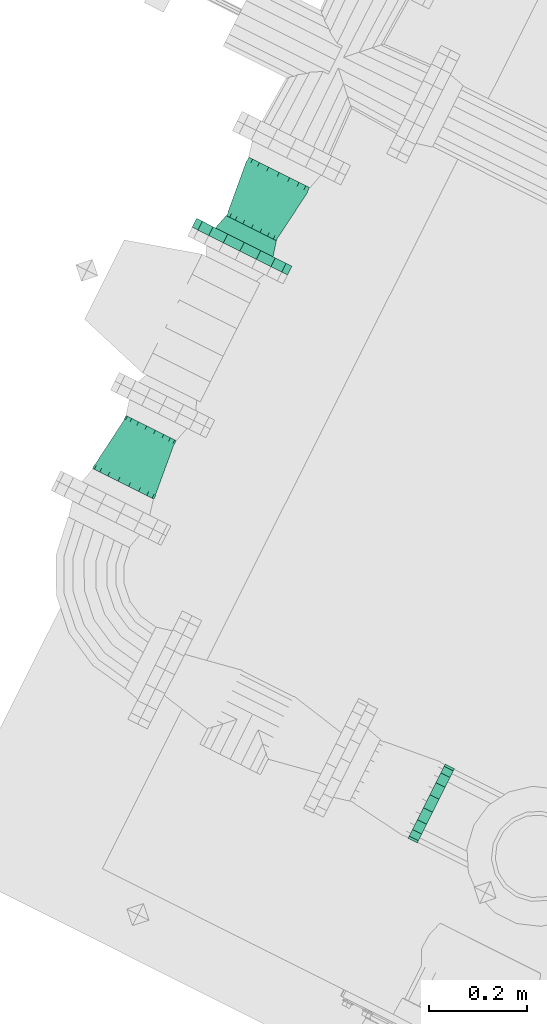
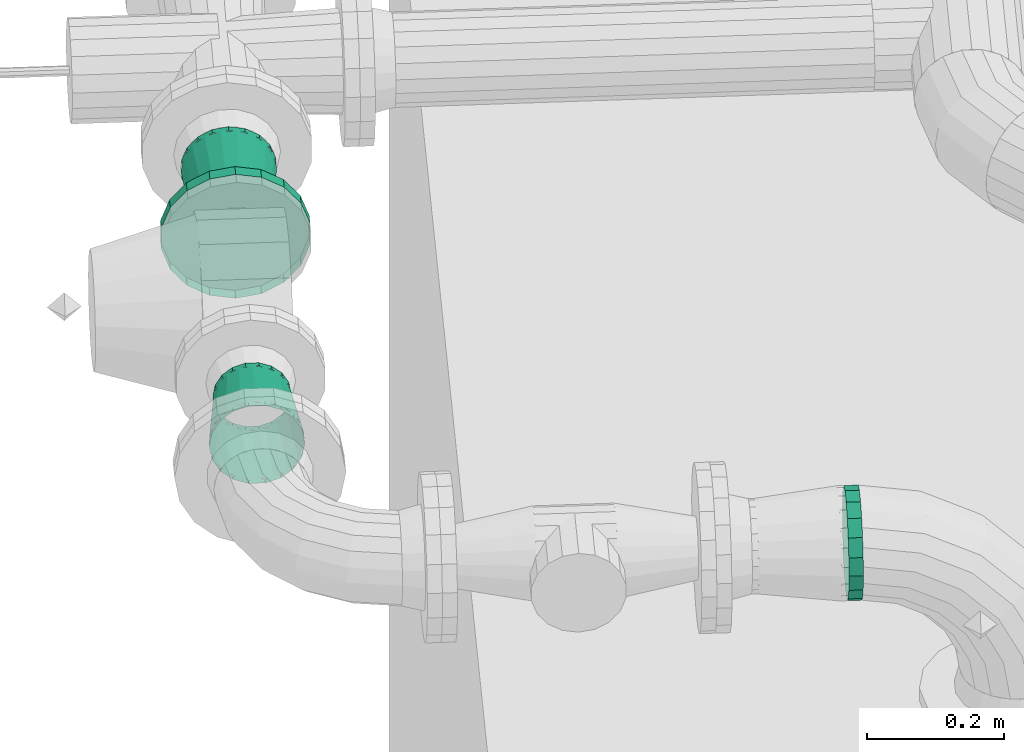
# One storey, part 101 of 206: 3 flow fittings, 1 flow segment.
"""IFC2X3 building model written with IfcOpenShell, lengths in metres."""

import ifcopenshell
import ifcopenshell.guid

model = None  # the IFC model being written
_history = None  # IfcOwnerHistory: only IFC2X3 demands one
_inside = {}  # id of a spatial element -> (the spatial element, [elements in it])
_under = {}  # id of a project, library or spatial element -> (it, [spatial elements below it])
_declared = {}  # id of a project -> (the project, [libraries it declares])
_typed = {}  # id of a type object -> (the type object, [elements of that type])
_made_of = {}  # id of a material, layer set ... -> (it, [elements and type objects made of it])


def new_model(schema):
    """Start an empty IFC model of exactly this schema.

    Asked for "IFC4X3", IfcOpenShell would pick the latest addendum, in which some entities
    have other attributes; the version numbers below select the first issue.
    IFC2X3 requires an IfcOwnerHistory on every rooted entity: one is made here for all.
    """
    global model, _history
    if schema == "IFC4X3":
        model = ifcopenshell.file(schema_version=(4, 3, 0, 0))
    else:
        model = ifcopenshell.file(schema=schema)
    _inside.clear()
    _under.clear()
    _declared.clear()
    _typed.clear()
    _made_of.clear()
    _history = None
    if model.schema == "IFC2X3":
        org = make("IfcOrganization", Name="unknown")
        user = make(
            "IfcPersonAndOrganization",
            ThePerson=make("IfcPerson", FamilyName="unknown"),
            TheOrganization=org,
        )
        app = make(
            "IfcApplication",
            ApplicationDeveloper=org,
            Version="unknown",
            ApplicationFullName="unknown",
            ApplicationIdentifier="unknown",
        )
        _history = make(
            "IfcOwnerHistory",
            OwningUser=user,
            OwningApplication=app,
            ChangeAction="ADDED",
            CreationDate=0,
        )
    return model


def make(cls, **values):
    """One entity of the class cls with the attributes given. An attribute that is None is left unset."""
    return model.create_entity(
        cls, **{name: value for name, value in values.items() if value is not None}
    )


def rooted(cls, **values):
    """An entity with a GlobalId (a new one), such as an element, a storey or a relation."""
    return make(cls, GlobalId=ifcopenshell.guid.new(), OwnerHistory=_history, **values)


def si_unit(unit_type, name, prefix=None):
    """IfcSIUnit, for example si_unit("LENGTHUNIT", "METRE", prefix="MILLI")."""
    return make("IfcSIUnit", UnitType=unit_type, Prefix=prefix, Name=name)


def derived_unit(unit_type, elements):
    """IfcDerivedUnit: a product of units, each with its exponent."""
    return make(
        "IfcDerivedUnit",
        Elements=[
            make("IfcDerivedUnitElement", Unit=unit, Exponent=power)
            for unit, power in elements
        ],
        UnitType=unit_type,
    )


def assignment(units):
    """IfcUnitAssignment: the units of a project."""
    return None if units is None else make("IfcUnitAssignment", Units=units)


def point(xyz):
    """IfcCartesianPoint."""
    return None if xyz is None else make("IfcCartesianPoint", Coordinates=xyz)


def direction(xyz):
    """IfcDirection."""
    return None if xyz is None else make("IfcDirection", DirectionRatios=xyz)


def frame(location, z_axis=None, x_axis=None):
    """IfcAxis2Placement3D, a coordinate frame: its origin and axes. An axis left out is left unset."""
    return make(
        "IfcAxis2Placement3D",
        Location=point(location),
        Axis=direction(z_axis),
        RefDirection=direction(x_axis),
    )


def origin():
    """The frame at (0, 0, 0) with its axes left unset."""
    return frame((0.0, 0.0, 0.0))


def place(relative_to, where):
    """IfcLocalPlacement: puts the frame where relative to a parent placement (None: the world)."""
    return make(
        "IfcLocalPlacement", PlacementRelTo=relative_to, RelativePlacement=where
    )


def context(
    kind, dimensions, precision=None, world=None, true_north=None, identifier=None
):
    """IfcGeometricRepresentationContext, for example the 3D "Model" context."""
    return make(
        "IfcGeometricRepresentationContext",
        ContextIdentifier=identifier,
        ContextType=kind,
        CoordinateSpaceDimension=dimensions,
        Precision=precision,
        WorldCoordinateSystem=world,
        TrueNorth=true_north,
    )


def subcontext(parent, identifier, kind, view, scale=None):
    """IfcGeometricRepresentationSubContext, for example "Body" below "Model"."""
    return make(
        "IfcGeometricRepresentationSubContext",
        ContextIdentifier=identifier,
        ContextType=kind,
        ParentContext=parent,
        TargetScale=scale,
        TargetView=view,
    )


def project(units=None, contexts=None):
    """IfcProject with its units and contexts."""
    return rooted(
        "IfcProject",
        Name="project",
        RepresentationContexts=contexts,
        UnitsInContext=assignment(units),
    )


def spatial(cls, under=None, at=None, **own):
    """A site, building, storey or space (cls), placed at a placement, below another one or the project."""
    s = rooted(cls, ObjectPlacement=at, **own)
    if under is not None:
        _under.setdefault(under.id(), (under, []))[1].append(s)
    return s


def faces_of(points, faces, orient=None, outer=None):
    """IfcFace entities. A face is a list of loops; a loop is a list of indices into points, from 0.

    orient and outer hold one flag for each loop. By default every Orientation is true, the
    first loop of a face is its IfcFaceOuterBound and the others are IfcFaceBound.
    """
    made = []
    for i, loops in enumerate(faces):
        bounds = []
        for j, loop in enumerate(loops):
            is_outer = j == 0 if outer is None else outer[i][j]
            bounds.append(
                make(
                    "IfcFaceOuterBound" if is_outer else "IfcFaceBound",
                    Bound=make("IfcPolyLoop", Polygon=[points[k] for k in loop]),
                    Orientation=True if orient is None else orient[i][j],
                )
            )
        made.append(make("IfcFace", Bounds=bounds))
    return made


def face_set(faces, orient=None, outer=None):
    """The faces of one IfcConnectedFaceSet. surface_model builds it on its shared points."""
    return ("IfcConnectedFaceSet", faces, orient, outer)


def surface_model(cls, points, shells):
    """IfcFaceBasedSurfaceModel or IfcShellBasedSurfaceModel (cls): surfaces that need not close."""
    shared = [point(p) for p in points]
    made = [make(c, CfsFaces=faces_of(shared, fs, o, b)) for c, fs, o, b in shells]
    if cls == "IfcFaceBasedSurfaceModel":
        return make(cls, FbsmFaces=made)
    return make(cls, SbsmBoundary=made)


def shape(context_of_items, identifier, shape_type, items):
    """IfcShapeRepresentation: the items that make up one representation, for example the "Body"."""
    return make(
        "IfcShapeRepresentation",
        ContextOfItems=context_of_items,
        RepresentationIdentifier=identifier,
        RepresentationType=shape_type,
        Items=items,
    )


def source(mapping_origin, context_of_items, identifier, shape_type, items):
    """IfcRepresentationMap: a shape defined once, which mapped items show again and again."""
    return make(
        "IfcRepresentationMap",
        MappingOrigin=mapping_origin,
        MappedRepresentation=shape(context_of_items, identifier, shape_type, items),
    )


def transform(
    local_origin,
    x_axis=None,
    y_axis=None,
    z_axis=None,
    scale=None,
    scale2=None,
    scale3=None,
    uniform=True,
):
    """IfcCartesianTransformationOperator3D, or its non-uniform kind. x_axis, y_axis, z_axis: its Axis1, 2, 3."""
    if uniform:
        return make(
            "IfcCartesianTransformationOperator3D",
            Axis1=direction(x_axis),
            Axis2=direction(y_axis),
            LocalOrigin=point(local_origin),
            Scale=scale,
            Axis3=direction(z_axis),
        )
    return make(
        "IfcCartesianTransformationOperator3DnonUniform",
        Axis1=direction(x_axis),
        Axis2=direction(y_axis),
        LocalOrigin=point(local_origin),
        Scale=scale,
        Axis3=direction(z_axis),
        Scale2=scale2,
        Scale3=scale3,
    )


def mapped(mapping_source, mapping_target):
    """IfcMappedItem: shows the shape of a source again, moved by a transform."""
    return make(
        "IfcMappedItem", MappingSource=mapping_source, MappingTarget=mapping_target
    )


def material(Name=None, Category=None):
    """IfcMaterial."""
    return make("IfcMaterial", Name=Name, Category=Category)


def made_of(thing, what):
    """Note that an element or type object is made of a material, layer set ...; save() writes the relation."""
    if what is not None:
        _made_of.setdefault(what.id(), (what, []))[1].append(thing)
    return thing


def type_object(cls, material=None, **own):
    """A type object (cls), such as IfcWallType, which elements share."""
    return made_of(rooted(cls, **own), material)


def type_shapes(of_type, sources):
    """Give a type object the sources (RepresentationMaps) that its elements show as mapped items."""
    of_type.RepresentationMaps = sources


def element(
    cls,
    number,
    at=None,
    inside=None,
    cuts=None,
    type_object=None,
    material=None,
    context=None,
    identifier="Body",
    shape_type=None,
    held_by="IfcProductDefinitionShape",
    body=None,
    shapes=None,
    **own,
):
    """One element of the class cls, such as IfcWall. Its Tag is "e" and its number.

    at: its placement. inside: the storey or other place that contains it. cuts: it is an
    opening in that element (IfcRelVoidsElement). A single representation is given by context,
    identifier, shape_type and body (its items); several are given by shapes. held_by: the class
    of the entity that holds the representations. save() writes the other relations.
    """
    e = rooted(cls, Tag="e%d" % number, ObjectPlacement=at, **own)
    if body is not None:
        shapes = [shape(context, identifier, shape_type, body)]
    if shapes is not None:
        e.Representation = make(held_by, Representations=shapes)
    if inside is not None:
        _inside.setdefault(inside.id(), (inside, []))[1].append(e)
    if cuts is not None:
        rooted(
            "IfcRelVoidsElement", RelatingBuildingElement=cuts, RelatedOpeningElement=e
        )
    if type_object is not None:
        _typed.setdefault(type_object.id(), (type_object, []))[1].append(e)
    return made_of(e, material)


def aggregate(whole, parts):
    """IfcRelAggregates: a whole, such as a stair, and the parts it consists of."""
    return rooted("IfcRelAggregates", RelatingObject=whole, RelatedObjects=parts)


def save(model, path):
    """Write the relations noted so far, then the file.

    IfcRelAggregates (storeys below a building ...), IfcRelContainedInSpatialStructure (elements
    in a storey), IfcRelDefinesByType, IfcRelAssociatesMaterial and IfcRelDeclares: one each for
    every whole, place, type object, material and project.
    """
    for whole, parts in _under.values():
        aggregate(whole, parts)
    for where, things in _inside.values():
        rooted(
            "IfcRelContainedInSpatialStructure",
            RelatedElements=things,
            RelatingStructure=where,
        )
    for kind, things in _typed.values():
        rooted("IfcRelDefinesByType", RelatedObjects=things, RelatingType=kind)
    for what, things in _made_of.values():
        rooted("IfcRelAssociatesMaterial", RelatedObjects=things, RelatingMaterial=what)
    for by, libraries in _declared.values():
        rooted("IfcRelDeclares", RelatingContext=by, RelatedDefinitions=libraries)
    model.write(path)


model = new_model("IFC2X3")

# Units and contexts
model_context = context("Model", 3, precision=5.2338327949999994e-05, world=origin(), true_north=direction((0.0, 1.0)))
body_context = subcontext(model_context, "Body", "Model", "MODEL_VIEW")
ifc_project = project(units=[si_unit("LENGTHUNIT", "METRE"), si_unit("AREAUNIT", "SQUARE_METRE"), si_unit("VOLUMEUNIT", "CUBIC_METRE"), si_unit("MASSUNIT", "GRAM", prefix="KILO"), si_unit("PLANEANGLEUNIT", "RADIAN"), derived_unit("THERMALTRANSMITTANCEUNIT", [(si_unit("MASSUNIT", "GRAM", prefix="KILO"), 1), (si_unit("THERMODYNAMICTEMPERATUREUNIT", "KELVIN"), -1), (si_unit("TIMEUNIT", "SECOND"), -3)])], contexts=[model_context])

# Site, building, storey
site_placement = place(None, frame((0.0, 0.0, 0.0), z_axis=(0.0, 0.0, 1.0), x_axis=(0.8939966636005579, -0.4480736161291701, 0.0)))
site = spatial("IfcSite", under=ifc_project, at=site_placement, Name="Default", CompositionType="ELEMENT")
building_placement = place(site_placement, origin())
building = spatial("IfcBuilding", under=site, at=building_placement, CompositionType="ELEMENT")
storey_placement = place(building_placement, origin())
storey = spatial("IfcBuildingStorey", under=building, at=storey_placement, Name="Erdgeschoss", CompositionType="ELEMENT", Elevation=0.0)

# Flow fittings
ifc_material = material(Name="IfcSurfaceStyle #1741")
distribution_element_type_1 = type_object("IfcDistributionElementType", Name="Übergangsstück 305407:Übergangsstück 305407", material=ifc_material)
shared_shape_1 = source(origin(), body_context, "Body", "SurfaceModel", [
    surface_model("IfcFaceBasedSurfaceModel", [(20.28113007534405, 5.695961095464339, 2.353999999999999), (20.285342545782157, 5.695961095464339, 2.3778901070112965), (20.285342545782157, 5.70549026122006, 2.3778901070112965), (20.28113007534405, 5.70549026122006, 2.353999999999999), (20.297471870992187, 5.695961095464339, 2.398898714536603), (20.297471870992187, 5.70549026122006, 2.398898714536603), (20.316055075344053, 5.695961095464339, 2.4144918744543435), (20.316055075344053, 5.70549026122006, 2.4144918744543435), (20.338850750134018, 5.695961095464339, 2.422788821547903), (20.338850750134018, 5.70549026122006, 2.422788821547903), (20.363109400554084, 5.695961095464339, 2.422788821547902), (20.363109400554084, 5.70549026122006, 2.422788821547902), (20.38590507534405, 5.695961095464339, 2.4144918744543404), (20.38590507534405, 5.70549026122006, 2.4144918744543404), (20.404488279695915, 5.695961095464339, 2.398898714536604), (20.404488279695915, 5.70549026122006, 2.398898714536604), (20.416617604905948, 5.695961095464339, 2.3778901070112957), (20.416617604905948, 5.70549026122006, 2.3778901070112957), (20.420830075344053, 5.695961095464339, 2.353999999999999), (20.420830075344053, 5.70549026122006, 2.353999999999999), (20.416617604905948, 5.695961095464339, 2.3301098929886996), (20.416617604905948, 5.70549026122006, 2.3301098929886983), (20.404488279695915, 5.695961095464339, 2.3091012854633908), (20.404488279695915, 5.70549026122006, 2.3091012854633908), (20.38590507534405, 5.695961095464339, 2.2935081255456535), (20.38590507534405, 5.70549026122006, 2.2935081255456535), (20.363109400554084, 5.695961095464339, 2.285211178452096), (20.363109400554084, 5.70549026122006, 2.285211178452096), (20.338850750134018, 5.695961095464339, 2.285211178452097), (20.338850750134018, 5.70549026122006, 2.285211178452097), (20.316055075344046, 5.695961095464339, 2.2935081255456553), (20.316055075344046, 5.70549026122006, 2.2935081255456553), (20.29747187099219, 5.695961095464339, 2.3091012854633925), (20.29747187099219, 5.70549026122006, 2.3091012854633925), (20.285342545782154, 5.695961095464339, 2.3301098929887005), (20.285342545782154, 5.70549026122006, 2.3301098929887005), (20.35098007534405, 5.70549026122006, 2.4238499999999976), (20.374870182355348, 5.70549026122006, 2.4196375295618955), (20.37052652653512, 5.814341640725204, 2.4077034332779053), (20.350980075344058, 5.814341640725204, 2.4111499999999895), (20.39587878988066, 5.70549026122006, 2.4075082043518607), (20.387715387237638, 5.814341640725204, 2.3977794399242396), (20.411471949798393, 5.70549026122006, 2.388924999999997), (20.400473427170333, 5.814341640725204, 2.382574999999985), (20.41976889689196, 5.70549026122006, 2.366129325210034), (20.4072618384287, 5.814341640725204, 2.3639239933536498), (20.419768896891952, 5.70549026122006, 2.3418706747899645), (20.407261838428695, 5.814341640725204, 2.3440760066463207), (20.411471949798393, 5.70549026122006, 2.319074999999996), (20.40047342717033, 5.814341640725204, 2.3254249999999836), (20.39587878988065, 5.70549026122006, 2.300491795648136), (20.38771538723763, 5.814341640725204, 2.3102205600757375), (20.374870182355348, 5.70549026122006, 2.2883624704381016), (20.3705265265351, 5.814341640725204, 2.3002965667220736), (20.35098007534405, 5.70549026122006, 2.2841499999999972), (20.35098007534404, 5.814341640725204, 2.2968499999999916), (20.327089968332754, 5.70549026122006, 2.288362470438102), (20.331433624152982, 5.814341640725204, 2.3002965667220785), (20.306081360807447, 5.70549026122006, 2.300491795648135), (20.314244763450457, 5.814341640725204, 2.310220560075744), (20.29048820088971, 5.70549026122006, 2.3190750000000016), (20.301486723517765, 5.814341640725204, 2.325424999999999), (20.282191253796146, 5.70549026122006, 2.3418706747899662), (20.2946983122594, 5.814341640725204, 2.3440760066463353), (20.282191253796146, 5.70549026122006, 2.366129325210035), (20.2946983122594, 5.814341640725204, 2.3639239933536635), (20.290488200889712, 5.70549026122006, 2.3889249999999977), (20.301486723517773, 5.814341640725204, 2.3825749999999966), (20.306081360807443, 5.70549026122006, 2.407508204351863), (20.314244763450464, 5.814341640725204, 2.39777943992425), (20.327089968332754, 5.70549026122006, 2.419637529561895), (20.331433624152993, 5.814341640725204, 2.4077034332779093), (20.293830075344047, 5.814341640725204, 2.3539999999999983), (20.297276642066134, 5.814341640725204, 2.3735464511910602), (20.297276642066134, 5.82296109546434, 2.3735464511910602), (20.293830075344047, 5.82296109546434, 2.3539999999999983), (20.307200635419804, 5.814341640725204, 2.390735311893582), (20.307200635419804, 5.82296109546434, 2.390735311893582), (20.322405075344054, 5.814341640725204, 2.4034933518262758), (20.322405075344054, 5.82296109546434, 2.4034933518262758), (20.341056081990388, 5.814341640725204, 2.4102817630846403), (20.341056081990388, 5.82296109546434, 2.4102817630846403), (20.36090406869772, 5.814341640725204, 2.4102817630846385), (20.36090406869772, 5.82296109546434, 2.4102817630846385), (20.379555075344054, 5.814341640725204, 2.4034933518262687), (20.379555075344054, 5.82296109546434, 2.4034933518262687), (20.394759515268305, 5.814341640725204, 2.390735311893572), (20.394759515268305, 5.82296109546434, 2.390735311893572), (20.404683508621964, 5.814341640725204, 2.373546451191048), (20.404683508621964, 5.82296109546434, 2.373546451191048), (20.40813007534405, 5.814341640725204, 2.353999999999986), (20.40813007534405, 5.82296109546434, 2.353999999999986), (20.40468350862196, 5.814341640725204, 2.334453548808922), (20.40468350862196, 5.82296109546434, 2.334453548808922), (20.394759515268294, 5.814341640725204, 2.3172646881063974), (20.394759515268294, 5.82296109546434, 2.3172646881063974), (20.37955507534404, 5.814341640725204, 2.3045066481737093), (20.37955507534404, 5.82296109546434, 2.3045066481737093), (20.360904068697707, 5.814341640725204, 2.297718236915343), (20.360904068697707, 5.82296109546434, 2.297718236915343), (20.341056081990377, 5.814341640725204, 2.297718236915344), (20.341056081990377, 5.82296109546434, 2.297718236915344), (20.32240507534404, 5.814341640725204, 2.304506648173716), (20.32240507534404, 5.82296109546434, 2.304506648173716), (20.307200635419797, 5.814341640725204, 2.317264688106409), (20.307200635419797, 5.82296109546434, 2.317264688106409), (20.29727664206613, 5.814341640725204, 2.334453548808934), (20.29727664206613, 5.82296109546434, 2.334453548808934)], [face_set([[[0, 1, 2, 3]], [[1, 4, 5, 2]], [[4, 6, 7, 5]], [[6, 8, 9, 7]], [[8, 10, 11, 9]], [[10, 12, 13, 11]], [[12, 14, 15, 13]], [[14, 16, 17, 15]], [[16, 18, 19, 17]], [[18, 20, 21, 19]], [[20, 22, 23, 21]], [[22, 24, 25, 23]], [[24, 26, 27, 25]], [[26, 28, 29, 27]], [[28, 30, 31, 29]], [[30, 32, 33, 31]], [[32, 34, 35, 33]], [[34, 0, 3, 35]], [[36, 37, 38, 39]], [[37, 40, 41, 38]], [[40, 42, 43, 41]], [[42, 44, 45, 43]], [[44, 46, 47, 45]], [[46, 48, 49, 47]], [[48, 50, 51, 49]], [[50, 52, 53, 51]], [[52, 54, 55, 53]], [[54, 56, 57, 55]], [[56, 58, 59, 57]], [[58, 60, 61, 59]], [[60, 62, 63, 61]], [[62, 64, 65, 63]], [[64, 66, 67, 65]], [[66, 68, 69, 67]], [[68, 70, 71, 69]], [[70, 36, 39, 71]], [[72, 73, 74, 75]], [[73, 76, 77, 74]], [[76, 78, 79, 77]], [[78, 80, 81, 79]], [[80, 82, 83, 81]], [[82, 84, 85, 83]], [[84, 86, 87, 85]], [[86, 88, 89, 87]], [[88, 90, 91, 89]], [[90, 92, 93, 91]], [[92, 94, 95, 93]], [[94, 96, 97, 95]], [[96, 98, 99, 97]], [[98, 100, 101, 99]], [[100, 102, 103, 101]], [[102, 104, 105, 103]], [[104, 106, 107, 105]], [[106, 72, 75, 107]]])]),
])
type_shapes(distribution_element_type_1, [shared_shape_1])
flow_fitting_1_placement = place(storey_placement, origin())
element("IfcFlowFitting", 1, at=flow_fitting_1_placement, inside=storey, type_object=distribution_element_type_1, material=ifc_material, Name="Übergangsstück", ObjectType="Übergangsstück", context=body_context, shape_type="MappedRepresentation", body=[
    mapped(shared_shape_1, transform((0.0, 0.0, 0.0), scale=1.0)),
])
distribution_element_type_2 = type_object("IfcDistributionElementType", Name="Flansch 307744:Flansch 307744", material=ifc_material)
shared_shape_2 = source(origin(), body_context, "Body", "SurfaceModel", [
    surface_model("IfcFaceBasedSurfaceModel", [(20.35098007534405, 6.22496109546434, 2.4639999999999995), (20.388602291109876, 6.22496109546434, 2.4573661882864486), (20.388602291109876, 6.2449610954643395, 2.4573661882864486), (20.35098007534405, 6.244961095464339, 2.4639999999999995), (20.42168671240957, 6.22496109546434, 2.4382648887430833), (20.42168671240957, 6.2449610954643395, 2.4382648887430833), (20.446242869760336, 6.22496109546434, 2.4089999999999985), (20.446242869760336, 6.2449610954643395, 2.4089999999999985), (20.45930892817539, 6.22496109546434, 2.373101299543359), (20.45930892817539, 6.2449610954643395, 2.373101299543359), (20.45930892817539, 6.22496109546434, 2.334898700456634), (20.45930892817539, 6.2449610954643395, 2.334898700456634), (20.446242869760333, 6.22496109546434, 2.298999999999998), (20.446242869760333, 6.2449610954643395, 2.298999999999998), (20.421686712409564, 6.22496109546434, 2.269735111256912), (20.421686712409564, 6.2449610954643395, 2.269735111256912), (20.388602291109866, 6.22496109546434, 2.2506338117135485), (20.388602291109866, 6.2449610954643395, 2.2506338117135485), (20.350980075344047, 6.22496109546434, 2.243999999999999), (20.350980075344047, 6.2449610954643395, 2.243999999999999), (20.313357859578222, 6.22496109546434, 2.2506338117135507), (20.313357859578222, 6.2449610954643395, 2.2506338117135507), (20.280273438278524, 6.22496109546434, 2.269735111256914), (20.280273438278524, 6.2449610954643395, 2.269735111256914), (20.255717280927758, 6.22496109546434, 2.2990000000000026), (20.255717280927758, 6.2449610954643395, 2.2990000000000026), (20.242651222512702, 6.22496109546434, 2.334898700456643), (20.242651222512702, 6.2449610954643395, 2.334898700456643), (20.242651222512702, 6.22496109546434, 2.373101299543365), (20.242651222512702, 6.2449610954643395, 2.373101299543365), (20.255717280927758, 6.22496109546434, 2.4090000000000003), (20.255717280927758, 6.2449610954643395, 2.4090000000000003), (20.28027343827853, 6.22496109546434, 2.438264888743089), (20.28027343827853, 6.2449610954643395, 2.438264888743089), (20.313357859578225, 6.22496109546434, 2.457366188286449), (20.313357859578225, 6.2449610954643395, 2.457366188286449), (20.350980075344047, 6.244961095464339, 2.3539999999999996), (20.416480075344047, 6.2449610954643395, 2.3539999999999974), (20.41252994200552, 6.2449610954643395, 2.331597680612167), (20.40468350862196, 6.2769610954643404, 2.3344535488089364), (20.40813007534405, 6.276961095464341, 2.353999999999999), (20.401155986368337, 6.2449610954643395, 2.3118974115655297), (20.394759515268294, 6.2769610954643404, 2.3172646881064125), (20.383730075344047, 6.2449610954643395, 2.2972753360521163), (20.379555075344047, 6.2769610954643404, 2.304506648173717), (20.36235403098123, 6.2449610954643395, 2.2894950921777), (20.36090406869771, 6.2769610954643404, 2.2977182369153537), (20.339606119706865, 6.2449610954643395, 2.2894950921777), (20.341056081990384, 6.2769610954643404, 2.2977182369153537), (20.31823007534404, 6.2449610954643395, 2.297275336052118), (20.322405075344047, 6.2769610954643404, 2.304506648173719), (20.300804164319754, 6.2449610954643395, 2.3118974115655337), (20.307200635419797, 6.2769610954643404, 2.317264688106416), (20.28943020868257, 6.244961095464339, 2.331597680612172), (20.29727664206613, 6.276961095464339, 2.3344535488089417), (20.285480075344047, 6.244961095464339, 2.354000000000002), (20.293830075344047, 6.276961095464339, 2.3540000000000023), (20.28943020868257, 6.244961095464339, 2.376402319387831), (20.29727664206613, 6.276961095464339, 2.373546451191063), (20.300804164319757, 6.2449610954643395, 2.396102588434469), (20.307200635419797, 6.2769610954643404, 2.390735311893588), (20.31823007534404, 6.244961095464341, 2.410724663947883), (20.322405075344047, 6.276961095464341, 2.4034933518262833), (20.339606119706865, 6.2449610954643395, 2.418504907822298), (20.341056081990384, 6.2769610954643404, 2.4102817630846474), (20.362354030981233, 6.2449610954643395, 2.4185049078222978), (20.36090406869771, 6.2769610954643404, 2.4102817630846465), (20.383730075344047, 6.2449610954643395, 2.4107246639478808), (20.379555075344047, 6.2769610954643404, 2.4034933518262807), (20.401155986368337, 6.2449610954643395, 2.3961025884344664), (20.394759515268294, 6.2769610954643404, 2.3907353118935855), (20.41252994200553, 6.244961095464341, 2.3764023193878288), (20.404683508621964, 6.276961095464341, 2.3735464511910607)], [face_set([[[0, 1, 2, 3]], [[1, 4, 5, 2]], [[4, 6, 7, 5]], [[6, 8, 9, 7]], [[8, 10, 11, 9]], [[10, 12, 13, 11]], [[12, 14, 15, 13]], [[14, 16, 17, 15]], [[16, 18, 19, 17]], [[18, 20, 21, 19]], [[20, 22, 23, 21]], [[22, 24, 25, 23]], [[24, 26, 27, 25]], [[26, 28, 29, 27]], [[28, 30, 31, 29]], [[30, 32, 33, 31]], [[32, 34, 35, 33]], [[34, 0, 3, 35]], [[36, 35, 3]], [[36, 33, 35]], [[36, 31, 33]], [[36, 29, 31]], [[36, 27, 29]], [[36, 25, 27]], [[36, 23, 25]], [[36, 21, 23]], [[36, 19, 21]], [[36, 17, 19]], [[36, 15, 17]], [[36, 13, 15]], [[36, 11, 13]], [[36, 9, 11]], [[36, 7, 9]], [[36, 5, 7]], [[36, 2, 5]], [[36, 3, 2]], [[37, 38, 39, 40]], [[38, 41, 42, 39]], [[41, 43, 44, 42]], [[43, 45, 46, 44]], [[45, 47, 48, 46]], [[47, 49, 50, 48]], [[49, 51, 52, 50]], [[51, 53, 54, 52]], [[53, 55, 56, 54]], [[55, 57, 58, 56]], [[57, 59, 60, 58]], [[59, 61, 62, 60]], [[61, 63, 64, 62]], [[63, 65, 66, 64]], [[65, 67, 68, 66]], [[67, 69, 70, 68]], [[69, 71, 72, 70]], [[71, 37, 40, 72]]])]),
])
type_shapes(distribution_element_type_2, [shared_shape_2])
flow_fitting_2_placement = place(storey_placement, origin())
element("IfcFlowFitting", 2, at=flow_fitting_2_placement, inside=storey, type_object=distribution_element_type_2, material=ifc_material, Name="Flansch", ObjectType="Flansch", context=body_context, shape_type="MappedRepresentation", body=[
    mapped(shared_shape_2, transform((0.0, 0.0, 0.0), scale=1.0)),
])
distribution_element_type_3 = type_object("IfcDistributionElementType", Name="Übergangsstück 307767:Übergangsstück 307767", material=ifc_material)
shared_shape_3 = source(origin(), body_context, "Body", "SurfaceModel", [
    surface_model("IfcFaceBasedSurfaceModel", [(20.35098007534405, 6.403961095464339, 2.4238500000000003), (20.327089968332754, 6.403961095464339, 2.4196375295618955), (20.327089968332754, 6.3944319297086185, 2.4196375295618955), (20.35098007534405, 6.3944319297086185, 2.4238500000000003), (20.306081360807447, 6.403961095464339, 2.4075082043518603), (20.306081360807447, 6.3944319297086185, 2.4075082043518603), (20.29048820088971, 6.403961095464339, 2.388925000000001), (20.29048820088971, 6.3944319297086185, 2.388925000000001), (20.282191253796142, 6.403961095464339, 2.366129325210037), (20.282191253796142, 6.3944319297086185, 2.366129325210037), (20.282191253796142, 6.403961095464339, 2.341870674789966), (20.282191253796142, 6.3944319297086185, 2.341870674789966), (20.29048820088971, 6.403961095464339, 2.3190749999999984), (20.29048820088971, 6.3944319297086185, 2.3190749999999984), (20.306081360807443, 6.403961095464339, 2.300491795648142), (20.306081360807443, 6.3944319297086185, 2.300491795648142), (20.327089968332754, 6.403961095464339, 2.2883624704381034), (20.327089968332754, 6.3944319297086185, 2.2883624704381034), (20.35098007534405, 6.403961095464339, 2.2841499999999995), (20.35098007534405, 6.3944319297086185, 2.2841499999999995), (20.374870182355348, 6.403961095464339, 2.2883624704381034), (20.374870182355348, 6.3944319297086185, 2.2883624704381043), (20.39587878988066, 6.403961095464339, 2.300491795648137), (20.39587878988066, 6.3944319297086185, 2.300491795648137), (20.411471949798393, 6.403961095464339, 2.319075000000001), (20.411471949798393, 6.3944319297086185, 2.319075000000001), (20.419768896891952, 6.403961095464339, 2.341870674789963), (20.419768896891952, 6.3944319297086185, 2.341870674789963), (20.419768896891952, 6.403961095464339, 2.366129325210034), (20.419768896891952, 6.3944319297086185, 2.366129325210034), (20.411471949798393, 6.403961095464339, 2.3889249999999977), (20.411471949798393, 6.3944319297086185, 2.3889249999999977), (20.39587878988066, 6.403961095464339, 2.4075082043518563), (20.39587878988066, 6.3944319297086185, 2.4075082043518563), (20.37487018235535, 6.403961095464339, 2.419637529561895), (20.37487018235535, 6.3944319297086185, 2.419637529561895), (20.28113007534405, 6.3944319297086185, 2.354000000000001), (20.285342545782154, 6.3944319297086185, 2.330109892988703), (20.297276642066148, 6.285580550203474, 2.3344535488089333), (20.293830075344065, 6.285580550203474, 2.3539999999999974), (20.297471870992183, 6.3944319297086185, 2.3091012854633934), (20.307200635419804, 6.285580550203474, 2.317264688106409), (20.316055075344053, 6.3944319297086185, 2.2935081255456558), (20.322405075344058, 6.285580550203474, 2.3045066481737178), (20.33885075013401, 6.3944319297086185, 2.285211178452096), (20.3410560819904, 6.285580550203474, 2.297718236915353), (20.363109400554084, 6.3944319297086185, 2.285211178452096), (20.360904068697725, 6.285580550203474, 2.2977182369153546), (20.38590507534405, 6.3944319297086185, 2.293508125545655), (20.37955507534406, 6.285580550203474, 2.304506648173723), (20.404488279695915, 6.3944319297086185, 2.3091012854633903), (20.394759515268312, 6.285580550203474, 2.3172646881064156), (20.416617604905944, 6.3944319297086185, 2.3301098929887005), (20.404683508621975, 6.285580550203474, 2.3344535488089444), (20.420830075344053, 6.3944319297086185, 2.3539999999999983), (20.408130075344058, 6.285580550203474, 2.3540000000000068), (20.416617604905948, 6.3944319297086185, 2.377890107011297), (20.404683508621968, 6.285580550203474, 2.3735464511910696), (20.40448827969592, 6.3944319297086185, 2.398898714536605), (20.394759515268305, 6.285580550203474, 2.3907353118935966), (20.38590507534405, 6.3944319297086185, 2.414491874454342), (20.37955507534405, 6.285580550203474, 2.4034933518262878), (20.363109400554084, 6.3944319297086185, 2.4227888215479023), (20.360904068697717, 6.285580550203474, 2.410281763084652), (20.338850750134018, 6.3944319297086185, 2.422788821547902), (20.341056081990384, 6.285580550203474, 2.410281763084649), (20.316055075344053, 6.3944319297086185, 2.414491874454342), (20.32240507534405, 6.285580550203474, 2.403493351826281), (20.297471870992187, 6.3944319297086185, 2.3988987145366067), (20.3072006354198, 6.285580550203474, 2.390735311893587), (20.285342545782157, 6.3944319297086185, 2.3778901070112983), (20.297276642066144, 6.285580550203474, 2.373546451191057), (20.35098007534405, 6.285580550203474, 2.4111500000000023), (20.33143362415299, 6.285580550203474, 2.4077034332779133), (20.33143362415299, 6.276961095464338, 2.4077034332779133), (20.35098007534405, 6.276961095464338, 2.4111500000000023), (20.314244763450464, 6.285580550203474, 2.3977794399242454), (20.314244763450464, 6.276961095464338, 2.3977794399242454), (20.301486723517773, 6.285580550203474, 2.382574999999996), (20.301486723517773, 6.276961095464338, 2.382574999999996), (20.29469831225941, 6.285580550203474, 2.3639239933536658), (20.29469831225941, 6.276961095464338, 2.3639239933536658), (20.29469831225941, 6.285580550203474, 2.344076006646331), (20.29469831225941, 6.276961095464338, 2.344076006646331), (20.301486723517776, 6.285580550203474, 2.325424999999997), (20.301486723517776, 6.276961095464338, 2.325424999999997), (20.31424476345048, 6.285580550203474, 2.3102205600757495), (20.31424476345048, 6.276961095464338, 2.3102205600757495), (20.331433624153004, 6.285580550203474, 2.3002965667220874), (20.331433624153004, 6.276961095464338, 2.3002965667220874), (20.350980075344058, 6.285580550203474, 2.2968500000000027), (20.350980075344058, 6.276961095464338, 2.2968500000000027), (20.370526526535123, 6.285580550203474, 2.3002965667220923), (20.370526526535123, 6.276961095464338, 2.3002965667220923), (20.38771538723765, 6.285580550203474, 2.3102205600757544), (20.38771538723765, 6.276961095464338, 2.3102205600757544), (20.40047342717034, 6.285580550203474, 2.3254250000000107), (20.40047342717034, 6.276961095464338, 2.3254250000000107), (20.407261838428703, 6.285580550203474, 2.3440760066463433), (20.407261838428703, 6.276961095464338, 2.3440760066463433), (20.407261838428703, 6.285580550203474, 2.363923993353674), (20.407261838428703, 6.276961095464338, 2.363923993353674), (20.400473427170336, 6.285580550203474, 2.382575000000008), (20.400473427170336, 6.276961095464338, 2.382575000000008), (20.387715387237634, 6.285580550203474, 2.3977794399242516), (20.387715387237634, 6.276961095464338, 2.3977794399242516), (20.370526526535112, 6.285580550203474, 2.407703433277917), (20.370526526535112, 6.276961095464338, 2.407703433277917)], [face_set([[[0, 1, 2, 3]], [[1, 4, 5, 2]], [[4, 6, 7, 5]], [[6, 8, 9, 7]], [[8, 10, 11, 9]], [[10, 12, 13, 11]], [[12, 14, 15, 13]], [[14, 16, 17, 15]], [[16, 18, 19, 17]], [[18, 20, 21, 19]], [[20, 22, 23, 21]], [[22, 24, 25, 23]], [[24, 26, 27, 25]], [[26, 28, 29, 27]], [[28, 30, 31, 29]], [[30, 32, 33, 31]], [[32, 34, 35, 33]], [[34, 0, 3, 35]], [[36, 37, 38, 39]], [[37, 40, 41, 38]], [[40, 42, 43, 41]], [[42, 44, 45, 43]], [[44, 46, 47, 45]], [[46, 48, 49, 47]], [[48, 50, 51, 49]], [[50, 52, 53, 51]], [[52, 54, 55, 53]], [[54, 56, 57, 55]], [[56, 58, 59, 57]], [[58, 60, 61, 59]], [[60, 62, 63, 61]], [[62, 64, 65, 63]], [[64, 66, 67, 65]], [[66, 68, 69, 67]], [[68, 70, 71, 69]], [[70, 36, 39, 71]], [[72, 73, 74, 75]], [[73, 76, 77, 74]], [[76, 78, 79, 77]], [[78, 80, 81, 79]], [[80, 82, 83, 81]], [[82, 84, 85, 83]], [[84, 86, 87, 85]], [[86, 88, 89, 87]], [[88, 90, 91, 89]], [[90, 92, 93, 91]], [[92, 94, 95, 93]], [[94, 96, 97, 95]], [[96, 98, 99, 97]], [[98, 100, 101, 99]], [[100, 102, 103, 101]], [[102, 104, 105, 103]], [[104, 106, 107, 105]], [[106, 72, 75, 107]]])]),
])
type_shapes(distribution_element_type_3, [shared_shape_3])
flow_fitting_3_placement = place(storey_placement, origin())
element("IfcFlowFitting", 3, at=flow_fitting_3_placement, inside=storey, type_object=distribution_element_type_3, material=ifc_material, Name="Übergangsstück", ObjectType="Übergangsstück", context=body_context, shape_type="MappedRepresentation", body=[
    mapped(shared_shape_3, transform((0.0, 0.0, 0.0), scale=1.0)),
])

# Flow segment
distribution_element_type_4 = type_object("IfcDistributionElementType", Name="Stahlrohr nach DIN 2448 309327:Stahlrohr nach DIN 2448 309327", material=ifc_material)
shared_shape_4 = source(origin(), body_context, "Body", "SurfaceModel", [
    surface_model("IfcFaceBasedSurfaceModel", [(21.211947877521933, 5.4801110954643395, 2.354), (21.211947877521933, 5.4750362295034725, 2.325219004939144), (21.190980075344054, 5.475036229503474, 2.325219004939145), (21.190980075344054, 5.480111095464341, 2.3540000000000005), (21.211947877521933, 5.4604237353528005, 2.2999094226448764), (21.190980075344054, 5.460423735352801, 2.299909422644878), (21.211947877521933, 5.438036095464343, 2.2811239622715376), (21.190980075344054, 5.43803609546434, 2.2811239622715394), (21.211947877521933, 5.410573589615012, 2.2711284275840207), (21.190980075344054, 5.410573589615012, 2.271128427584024), (21.211947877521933, 5.38134860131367, 2.271128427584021), (21.190980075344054, 5.381348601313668, 2.2711284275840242), (21.211947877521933, 5.353886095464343, 2.2811239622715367), (21.190980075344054, 5.35388609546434, 2.2811239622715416), (21.211947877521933, 5.331498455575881, 2.299909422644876), (21.190980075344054, 5.331498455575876, 2.2999094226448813), (21.211947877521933, 5.316885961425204, 2.325219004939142), (21.190980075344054, 5.316885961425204, 2.3252190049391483), (21.211947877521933, 5.311811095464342, 2.353999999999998), (21.190980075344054, 5.311811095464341, 2.354000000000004), (21.211947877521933, 5.3168859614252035, 2.382780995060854), (21.190980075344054, 5.316885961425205, 2.3827809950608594), (21.211947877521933, 5.331498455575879, 2.408090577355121), (21.190980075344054, 5.331498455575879, 2.4080905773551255), (21.211947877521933, 5.35388609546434, 2.4268760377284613), (21.190980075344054, 5.35388609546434, 2.426876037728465), (21.211947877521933, 5.381348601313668, 2.436871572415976), (21.190980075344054, 5.38134860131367, 2.4368715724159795), (21.211947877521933, 5.4105735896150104, 2.436871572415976), (21.190980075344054, 5.410573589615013, 2.4368715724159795), (21.211947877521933, 5.438036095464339, 2.426876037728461), (21.190980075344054, 5.43803609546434, 2.426876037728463), (21.211947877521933, 5.4604237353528, 2.408090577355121), (21.190980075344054, 5.460423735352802, 2.408090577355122), (21.211947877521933, 5.4750362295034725, 2.3827809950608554), (21.190980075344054, 5.475036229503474, 2.382780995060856)], [face_set([[[0, 1, 2, 3]], [[1, 4, 5, 2]], [[4, 6, 7, 5]], [[6, 8, 9, 7]], [[8, 10, 11, 9]], [[10, 12, 13, 11]], [[12, 14, 15, 13]], [[14, 16, 17, 15]], [[16, 18, 19, 17]], [[18, 20, 21, 19]], [[20, 22, 23, 21]], [[22, 24, 25, 23]], [[24, 26, 27, 25]], [[26, 28, 29, 27]], [[28, 30, 31, 29]], [[30, 32, 33, 31]], [[32, 34, 35, 33]], [[34, 0, 3, 35]]])]),
])
type_shapes(distribution_element_type_4, [shared_shape_4])
flow_segment_placement = place(storey_placement, origin())
element("IfcFlowSegment", 4, at=flow_segment_placement, inside=storey, type_object=distribution_element_type_4, material=ifc_material, Name="Stahlrohr nach DIN 2448", ObjectType="Stahlrohr nach DIN 2448", context=body_context, shape_type="MappedRepresentation", body=[
    mapped(shared_shape_4, transform((0.0, 0.0, 0.0), scale=1.0)),
])

save(model, "model.ifc")
